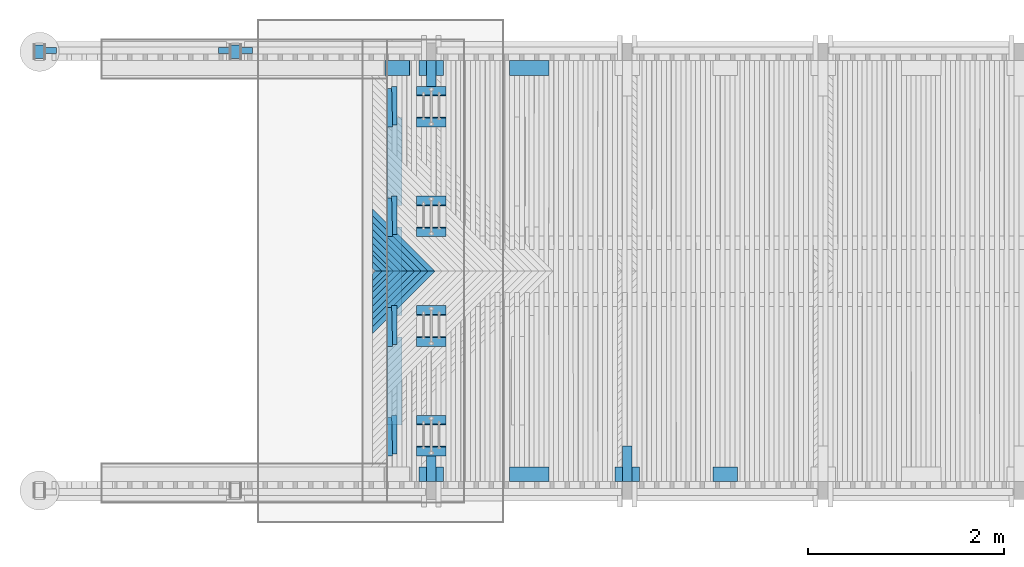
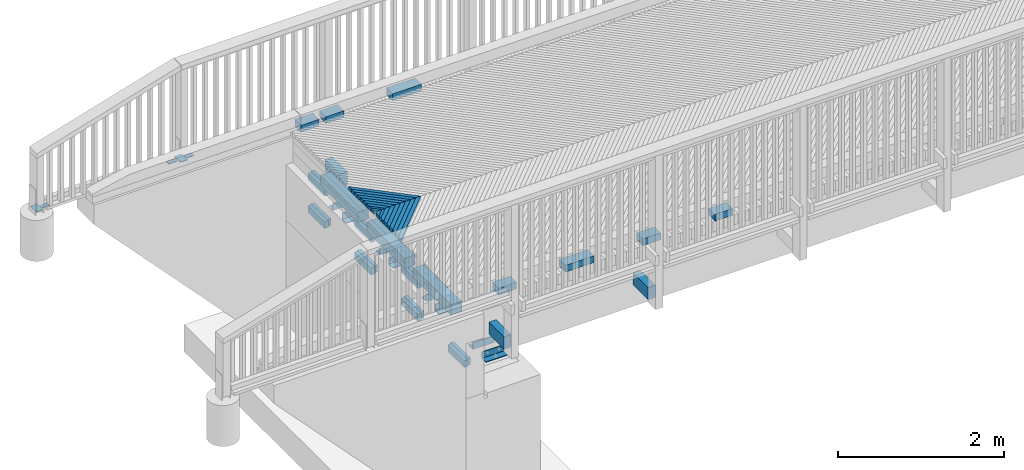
# One storey, part 47 of 52: 58 beams.
"""IFC2X3 building model written with IfcOpenShell, lengths in millimetres."""

from ifc_helpers import new_model, si_unit, frame, origin_with_axes, place, context, subcontext, project, spatial, faceted_brep, material, type_object, element, save


model = new_model("IFC2X3")

# Units and contexts
model_context = context("Model", 3, precision=1e-05, world=origin_with_axes())
body_context = subcontext(model_context, "Body", "Model", "MODEL_VIEW")
ifc_project = project(units=[si_unit("LENGTHUNIT", "METRE", prefix="MILLI"), si_unit("AREAUNIT", "SQUARE_METRE"), si_unit("VOLUMEUNIT", "CUBIC_METRE"), si_unit("MASSUNIT", "GRAM", prefix="KILO"), si_unit("TIMEUNIT", "SECOND"), si_unit("PLANEANGLEUNIT", "RADIAN"), si_unit("SOLIDANGLEUNIT", "STERADIAN"), si_unit("THERMODYNAMICTEMPERATUREUNIT", "DEGREE_CELSIUS"), si_unit("LUMINOUSINTENSITYUNIT", "LUMEN")], contexts=[model_context])

# Site, building, storey
site_placement = place(None, origin_with_axes())
site = spatial("IfcSite", under=ifc_project, at=site_placement, Name="Undefined", CompositionType="ELEMENT")
building_placement = place(site_placement, origin_with_axes())
building = spatial("IfcBuilding", under=site, at=building_placement, Name="Undefined", CompositionType="ELEMENT")
storey_placement = place(building_placement, origin_with_axes())
storey = spatial("IfcBuildingStorey", under=building, at=storey_placement, Name="Undefined", CompositionType="ELEMENT", Elevation=0.0)

# Beams
ifc_material_1 = material(Name="TIMBER/Timber_Undefined")
beam_type_1 = type_object("IfcBeamType", Name="150*100", PredefinedType="NOTDEFINED")
for number, where, z_axis, x_axis in (
    (1, (801.255181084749, 289.999999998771, 3175.55415743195), (0.0, -1.0, 0.0), (0.999955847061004, 0.0, 0.0093970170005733)),
    (2, (801.255181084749, 4439.99999999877, 3175.55415743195), (0.0, -1.0, 0.0), (0.999955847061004, 0.0, 0.0093970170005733)),
):
    element("IfcBeam", number, at=place(storey_placement, frame(where, z_axis=z_axis, x_axis=x_axis)), inside=storey, type_object=beam_type_1, material=ifc_material_1, Name="TÖRMÄYSJOHDE", ObjectType="150*100", context=body_context, shape_type="Brep", body=[
        faceted_brep([(-3.63797880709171e-12, 50.0, -75.0), (-3.63797880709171e-12, 50.0, 75.0), (399.996161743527, 49.9999999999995, 75.0), (399.996161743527, 49.9999999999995, -75.0), (0.0, -49.9999999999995, 75.0), (399.996161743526, -50.0000000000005, 75.0), (0.0, -49.9999999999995, -75.0), (399.996161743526, -50.0000000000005, -75.0)], [[[0, 1, 2, 3]], [[1, 4, 5, 2]], [[4, 6, 7, 5]], [[6, 0, 3, 7]], [[5, 7, 3, 2]], [[6, 4, 1, 0]]]),
    ])
for number, where, z_axis, x_axis in (
    (3, (2876.78354707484, 289.999999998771, 3196.15064859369), (0.0, -1.0, 0.0), (0.999952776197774, 0.0, 0.00971830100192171)),
    (4, (1876.41959979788, 289.999999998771, 3186.80706939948), (0.0, -1.0, 0.0), (0.999935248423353, 0.0, 0.0113797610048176)),
    (5, (-124.254815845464, 4439.99999999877, 3163.13350788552), (0.0, -1.0, 0.0), (0.999891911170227, 0.0, 0.0147025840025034)),
    (6, (-124.254815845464, 289.999999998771, 3163.13350788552), (0.0, -1.0, 0.0), (0.999891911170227, 0.0, 0.0147025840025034)),
    (7, (-469.724815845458, 4439.99999999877, 3158.3535078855), (0.0, -1.0, 0.0), (0.999891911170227, 0.0, 0.0147025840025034)),
):
    element("IfcBeam", number, at=place(storey_placement, frame(where, z_axis=z_axis, x_axis=x_axis)), inside=storey, type_object=beam_type_1, material=ifc_material_1, Name="TÖRMÄYSJOHDE", ObjectType="150*100", context=body_context, shape_type="Brep", body=[
        faceted_brep([(-3.63797880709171e-12, 50.0, -75.0), (-3.63797880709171e-12, 50.0, 75.0), (250.000589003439, 50.0000000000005, 75.0), (250.000589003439, 50.0000000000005, -75.0), (0.0, -49.9999999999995, 75.0), (250.000589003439, -50.0, 75.0), (0.0, -49.9999999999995, -75.0), (250.000589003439, -50.0, -75.0)], [[[0, 1, 2, 3]], [[1, 4, 5, 2]], [[4, 6, 7, 5]], [[6, 0, 3, 7]], [[5, 7, 3, 2]], [[6, 4, 1, 0]]]),
    ])
beam_type_2 = type_object("IfcBeamType", Name="150*150", PredefinedType="NOTDEFINED")
for number, where, z_axis, x_axis, name in (
    (8, (-375.006122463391, 3035.00113004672, 2658.99214114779), (4.45050000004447e-05, 0.0, 0.999999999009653), (0.0, 1.0, 0.0), "BEAM"),
    (9, (-375.006122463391, 1915.00113004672, 2658.99214114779), (4.45050000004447e-05, 0.0, 0.999999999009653), (0.0, 1.0, 0.0), "BEAM"),
    (10, (-375.006122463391, 795.001130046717, 2658.99214114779), (4.45050000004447e-05, 0.0, 0.999999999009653), (0.0, 1.0, 0.0), "BEAM"),
):
    element("IfcBeam", number, at=place(storey_placement, frame(where, z_axis=z_axis, x_axis=x_axis)), inside=storey, type_object=beam_type_2, material=ifc_material_1, Name=name, ObjectType="150*150", context=body_context, shape_type="Brep", body=[
        faceted_brep([(3.63797880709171e-12, 75.0000000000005, -75.0), (3.63797880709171e-12, 75.0000000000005, 75.0), (900.0, 75.0, 75.0000000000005), (900.0, 74.9999999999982, -74.9999999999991), (0.0, -75.0000000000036, 75.0000000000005), (900.0, -75.0000000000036, 75.0000000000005), (0.0, -75.0, -74.9999999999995), (900.0, -75.0, -74.9999999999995)], [[[0, 1, 2, 3]], [[1, 4, 5, 2]], [[4, 6, 7, 5]], [[6, 0, 3, 7]], [[5, 7, 3, 2]], [[6, 4, 1, 0]]]),
    ])
ifc_material_2 = material(Name="STEEL/AISI316")
beam_type_3 = type_object("IfcBeamType", Name="PL60*10", PredefinedType="NOTDEFINED")
for number, where, z_axis, x_axis in (
    (11, (-3940.00349607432, 4620.00000020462, 3073.75999999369), (-0.000116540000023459, -0.999999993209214, 0.0), (0.999999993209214, -0.000116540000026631, 0.0)),
    (12, (-2059.99650392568, 4620.00000020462, 3101.8699999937), (0.000116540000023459, -0.999999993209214, 0.0), (-0.999999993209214, -0.000116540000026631, 0.0)),
    (13, (-1940.00349607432, 4620.00000020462, 3101.86999999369), (-0.000116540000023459, -0.999999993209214, 0.0), (0.999999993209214, -0.000116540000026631, 0.0)),
):
    element("IfcBeam", number, at=place(storey_placement, frame(where, z_axis=z_axis, x_axis=x_axis)), inside=storey, type_object=beam_type_3, material=ifc_material_2, Name="KAIDEPYLVÄS", ObjectType="PL60*10", context=body_context, shape_type="Brep", body=[
        faceted_brep([(0.0, 5.0, -30.0), (3.63797880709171e-12, 5.0, 30.0000000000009), (115.000000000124, 5.0, 30.0000000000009), (115.000000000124, 5.0, -30.0), (3.63797880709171e-12, -5.0, 30.0000000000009), (115.000000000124, -5.0, 30.0000000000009), (0.0, -5.0, -30.0), (115.000000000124, -5.0, -30.0)], [[[0, 1, 2, 3]], [[1, 4, 5, 2]], [[4, 6, 7, 5]], [[6, 0, 3, 7]], [[5, 7, 3, 2]], [[6, 4, 1, 0]]]),
    ])
beam_type_4 = type_object("IfcBeamType", Name="PL100*10", PredefinedType="NOTDEFINED")
for number, where, z_axis, x_axis in (
    (14, (-3999.99999987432, 4674.98000000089, 3089.56000000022), (-1.0, 0.0, 0.0), (0.0, -1.0, 0.0)),
    (15, (-1999.99999987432, 4674.98000000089, 3117.67000000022), (-1.0, 0.0, 0.0), (0.0, -1.0, 0.0)),
):
    element("IfcBeam", number, at=place(storey_placement, frame(where, z_axis=z_axis, x_axis=x_axis)), inside=storey, type_object=beam_type_4, material=ifc_material_2, Name="KAIDEPYLVÄS", ObjectType="PL100*10", context=body_context, shape_type="Brep", body=[
        faceted_brep([(0.0, 5.0, -50.0), (0.0, 5.0, 50.0), (140.0, 5.0, 50.0), (140.0, 5.0, -50.0), (0.0, -5.0, 50.0), (140.0, -5.0, 50.0), (0.0, -5.0, -50.0), (140.0, -5.0, -50.0)], [[[0, 1, 2, 3]], [[1, 4, 5, 2]], [[4, 6, 7, 5]], [[6, 0, 3, 7]], [[5, 7, 3, 2]], [[6, 4, 1, 0]]]),
    ])
ifc_material_3 = material(Name="STEEL/S235JR")
beam_type_5 = type_object("IfcBeamType", Name="L100*10", PredefinedType="NOTDEFINED")
for number, where, z_axis, x_axis, name in (
    (16, (150.0, 2767.50000000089, 2047.33), (0.0, -1.0, 0.0), (-1.0, 0.0, 0.0), "BEAM"),
    (17, (150.0, 3082.50000000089, 2047.33), (0.0, 0.0, 1.0), (-1.0, 0.0, 0.0), "BEAM"),
    (18, (150.0, 3887.50000000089, 2025.33), (0.0, -1.0, 0.0), (-1.0, 0.0, 0.0), "BEAM"),
    (19, (150.0, 4202.50000000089, 2025.33), (0.0, 0.0, 1.0), (-1.0, 0.0, 0.0), "BEAM"),
    (20, (-150.0, 1962.5, 2047.33), (0.0, 1.0, 0.0), (1.0, 0.0, 0.0), "BEAM"),
    (21, (-150.0, 1647.5, 2047.33), (0.0, 0.0, 1.0), (1.0, 0.0, 0.0), "BEAM"),
    (22, (-150.0, 842.5, 2025.33), (0.0, 1.0, 0.0), (1.0, 0.0, 0.0), "BEAM"),
    (23, (-150.0, 527.5, 2025.33), (0.0, 0.0, 1.0), (1.0, 0.0, 0.0), "BEAM"),
):
    element("IfcBeam", number, at=place(storey_placement, frame(where, z_axis=z_axis, x_axis=x_axis)), inside=storey, type_object=beam_type_5, material=ifc_material_3, Name=name, ObjectType="L100*10", context=body_context, shape_type="Brep", body=[
        faceted_brep([(0.0, 50.0, -50.0), (0.0, 50.0, 50.0), (300.0, 50.0, 50.0), (300.0, 50.0, -50.0), (0.0, 40.0, 50.0), (300.0, 40.0, 50.0), (0.0, 40.0, -40.0), (300.0, 40.0, -40.0), (0.0, -50.0, -40.0), (300.0, -50.0, -40.0), (0.0, -50.0, -50.0), (300.0, -50.0, -50.0)], [[[0, 1, 2, 3]], [[1, 4, 5, 2]], [[4, 6, 7, 5]], [[6, 8, 9, 7]], [[8, 10, 11, 9]], [[10, 0, 3, 11]], [[5, 7, 9, 11, 3, 2]], [[10, 8, 6, 4, 1, 0]]]),
    ])
beam_type_6 = type_object("IfcBeamType", Name="100*60", PredefinedType="NOTDEFINED")
beam_1_placement = place(storey_placement, frame((-380.01, 3857.5, 2533.62000000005), z_axis=(0.0, 0.0, 1.0), x_axis=(0.0, 1.0, 0.0)))
element("IfcBeam", 24, at=beam_1_placement, inside=storey, type_object=beam_type_6, material=ifc_material_1, Name="BEAM", ObjectType="100*60", context=body_context, shape_type="Brep", body=[
    faceted_brep([(0.0, -30.0, 50.0), (0.0, -30.0, -50.0), (395.0, -30.0, -50.0), (395.0, -30.0, 50.0), (0.0, 15.2499998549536, 50.0), (0.0, 15.2499998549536, -50.0), (395.0, 25.25, -50.0), (395.0, 25.25, 50.0)], [[[0, 1, 2, 3]], [[1, 0, 4, 5]], [[2, 1, 5, 6]], [[3, 2, 6, 7]], [[0, 3, 7, 4]], [[6, 5, 4, 7]]]),
])
beam_2_placement = place(storey_placement, frame((-420.01, 3837.5, 2533.62000000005), z_axis=(0.0, 0.0, 1.0), x_axis=(0.0, 1.0, 0.0)))
element("IfcBeam", 25, at=beam_2_placement, inside=storey, type_object=beam_type_6, material=ifc_material_1, Name="BEAM", ObjectType="100*60", context=body_context, shape_type="Brep", body=[
    faceted_brep([(0.0, 30.0, -50.0), (0.0, 30.0, 50.0), (395.0, 30.0, 50.0), (395.0, 30.0, -50.0), (0.0, -25.2563292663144, 50.0), (395.0, -15.2563291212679, 50.0), (395.0, -15.2563291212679, -50.0), (0.0, -25.2563292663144, -50.0)], [[[0, 1, 2, 3]], [[2, 1, 4, 5]], [[3, 2, 5, 6]], [[0, 3, 6, 7]], [[1, 0, 7, 4]], [[6, 5, 4, 7]]]),
])
beam_3_placement = place(storey_placement, frame((-380.0, 3857.5, 2055.33), z_axis=(0.0, 0.0, 1.0), x_axis=(0.0, 1.0, 0.0)))
element("IfcBeam", 26, at=beam_3_placement, inside=storey, type_object=beam_type_6, material=ifc_material_1, Name="BEAM", ObjectType="100*60", context=body_context, shape_type="Brep", body=[
    faceted_brep([(0.0, -30.0, 50.0), (0.0, -30.0, -50.0), (395.0, -30.0, -50.0), (395.0, -30.0, 50.0), (0.0, 15.2499998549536, 50.0), (0.0, 15.2499998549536, -50.0), (395.0, 25.25, -50.0), (395.0, 25.25, 50.0)], [[[0, 1, 2, 3]], [[1, 0, 4, 5]], [[2, 1, 5, 6]], [[3, 2, 6, 7]], [[0, 3, 7, 4]], [[6, 5, 4, 7]]]),
])
beam_4_placement = place(storey_placement, frame((-420.0, 3837.5, 2055.33), z_axis=(0.0, 0.0, 1.0), x_axis=(0.0, 1.0, 0.0)))
element("IfcBeam", 27, at=beam_4_placement, inside=storey, type_object=beam_type_6, material=ifc_material_1, Name="BEAM", ObjectType="100*60", context=body_context, shape_type="Brep", body=[
    faceted_brep([(0.0, 30.0, -50.0), (0.0, 30.0, 50.0), (395.0, 30.0, 50.0), (395.0, 30.0, -50.0), (0.0, -25.2563292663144, 50.0), (395.0, -15.2563291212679, 50.0), (395.0, -15.2563291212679, -50.0), (0.0, -25.2563292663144, -50.0)], [[[0, 1, 2, 3]], [[2, 1, 4, 5]], [[3, 2, 5, 6]], [[0, 3, 6, 7]], [[1, 0, 7, 4]], [[6, 5, 4, 7]]]),
])
beam_5_placement = place(storey_placement, frame((-380.01, 2737.5, 2533.62000000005), z_axis=(0.0, 0.0, 1.0), x_axis=(0.0, 1.0, 0.0)))
element("IfcBeam", 28, at=beam_5_placement, inside=storey, type_object=beam_type_6, material=ifc_material_1, Name="BEAM", ObjectType="100*60", context=body_context, shape_type="Brep", body=[
    faceted_brep([(0.0, -30.0, 50.0), (0.0, -30.0, -50.0), (395.0, -30.0, -50.0), (395.0, -30.0, 50.0), (0.0, 15.2499998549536, 50.0), (0.0, 15.2499998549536, -50.0), (395.0, 25.25, -50.0), (395.0, 25.25, 50.0)], [[[0, 1, 2, 3]], [[1, 0, 4, 5]], [[2, 1, 5, 6]], [[3, 2, 6, 7]], [[0, 3, 7, 4]], [[6, 5, 4, 7]]]),
])
beam_6_placement = place(storey_placement, frame((-420.01, 2717.5, 2533.62000000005), z_axis=(0.0, 0.0, 1.0), x_axis=(0.0, 1.0, 0.0)))
element("IfcBeam", 29, at=beam_6_placement, inside=storey, type_object=beam_type_6, material=ifc_material_1, Name="BEAM", ObjectType="100*60", context=body_context, shape_type="Brep", body=[
    faceted_brep([(0.0, 30.0, -50.0), (0.0, 30.0, 50.0), (395.0, 30.0, 50.0), (395.0, 30.0, -50.0), (0.0, -25.2563292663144, 50.0), (395.0, -15.2563291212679, 50.0), (395.0, -15.2563291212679, -50.0), (0.0, -25.2563292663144, -50.0)], [[[0, 1, 2, 3]], [[2, 1, 4, 5]], [[3, 2, 5, 6]], [[0, 3, 6, 7]], [[1, 0, 7, 4]], [[6, 5, 4, 7]]]),
])
beam_7_placement = place(storey_placement, frame((-380.0, 2737.5, 2055.33), z_axis=(0.0, 0.0, 1.0), x_axis=(0.0, 1.0, 0.0)))
element("IfcBeam", 30, at=beam_7_placement, inside=storey, type_object=beam_type_6, material=ifc_material_1, Name="BEAM", ObjectType="100*60", context=body_context, shape_type="Brep", body=[
    faceted_brep([(0.0, -30.0, 50.0), (0.0, -30.0, -50.0), (395.0, -30.0, -50.0), (395.0, -30.0, 50.0), (0.0, 15.2499998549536, 50.0), (0.0, 15.2499998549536, -50.0), (395.0, 25.25, -50.0), (395.0, 25.25, 50.0)], [[[0, 1, 2, 3]], [[1, 0, 4, 5]], [[2, 1, 5, 6]], [[3, 2, 6, 7]], [[0, 3, 7, 4]], [[6, 5, 4, 7]]]),
])
beam_8_placement = place(storey_placement, frame((-420.0, 2717.5, 2055.33), z_axis=(0.0, 0.0, 1.0), x_axis=(0.0, 1.0, 0.0)))
element("IfcBeam", 31, at=beam_8_placement, inside=storey, type_object=beam_type_6, material=ifc_material_1, Name="BEAM", ObjectType="100*60", context=body_context, shape_type="Brep", body=[
    faceted_brep([(0.0, 30.0, -50.0), (0.0, 30.0, 50.0), (395.0, 30.0, 50.0), (395.0, 30.0, -50.0), (0.0, -25.2563292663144, 50.0), (395.0, -15.2563291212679, 50.0), (395.0, -15.2563291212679, -50.0), (0.0, -25.2563292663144, -50.0)], [[[0, 1, 2, 3]], [[2, 1, 4, 5]], [[3, 2, 5, 6]], [[0, 3, 6, 7]], [[1, 0, 7, 4]], [[6, 5, 4, 7]]]),
])
beam_9_placement = place(storey_placement, frame((-380.01, 1617.5, 2533.62000000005), z_axis=(0.0, 0.0, 1.0), x_axis=(0.0, 1.0, 0.0)))
element("IfcBeam", 32, at=beam_9_placement, inside=storey, type_object=beam_type_6, material=ifc_material_1, Name="BEAM", ObjectType="100*60", context=body_context, shape_type="Brep", body=[
    faceted_brep([(0.0, -30.0, 50.0), (0.0, -30.0, -50.0), (395.0, -30.0, -50.0), (395.0, -30.0, 50.0), (0.0, 15.2499998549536, 50.0), (0.0, 15.2499998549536, -50.0), (395.0, 25.25, -50.0), (395.0, 25.25, 50.0)], [[[0, 1, 2, 3]], [[1, 0, 4, 5]], [[2, 1, 5, 6]], [[3, 2, 6, 7]], [[0, 3, 7, 4]], [[6, 5, 4, 7]]]),
])
beam_10_placement = place(storey_placement, frame((-420.01, 1597.5, 2533.62000000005), z_axis=(0.0, 0.0, 1.0), x_axis=(0.0, 1.0, 0.0)))
element("IfcBeam", 33, at=beam_10_placement, inside=storey, type_object=beam_type_6, material=ifc_material_1, Name="BEAM", ObjectType="100*60", context=body_context, shape_type="Brep", body=[
    faceted_brep([(0.0, 30.0, -50.0), (0.0, 30.0, 50.0), (395.0, 30.0, 50.0), (395.0, 30.0, -50.0), (0.0, -25.2563292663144, 50.0), (395.0, -15.2563291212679, 50.0), (395.0, -15.2563291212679, -50.0), (0.0, -25.2563292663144, -50.0)], [[[0, 1, 2, 3]], [[2, 1, 4, 5]], [[3, 2, 5, 6]], [[0, 3, 6, 7]], [[1, 0, 7, 4]], [[6, 5, 4, 7]]]),
])
beam_11_placement = place(storey_placement, frame((-380.0, 1617.5, 2055.33), z_axis=(0.0, 0.0, 1.0), x_axis=(0.0, 1.0, 0.0)))
element("IfcBeam", 34, at=beam_11_placement, inside=storey, type_object=beam_type_6, material=ifc_material_1, Name="BEAM", ObjectType="100*60", context=body_context, shape_type="Brep", body=[
    faceted_brep([(0.0, -30.0, 50.0), (0.0, -30.0, -50.0), (395.0, -30.0, -50.0), (395.0, -30.0, 50.0), (0.0, 15.2499998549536, 50.0), (0.0, 15.2499998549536, -50.0), (395.0, 25.25, -50.0), (395.0, 25.25, 50.0)], [[[0, 1, 2, 3]], [[1, 0, 4, 5]], [[2, 1, 5, 6]], [[3, 2, 6, 7]], [[0, 3, 7, 4]], [[6, 5, 4, 7]]]),
])
beam_12_placement = place(storey_placement, frame((-420.0, 1597.5, 2055.33), z_axis=(0.0, 0.0, 1.0), x_axis=(0.0, 1.0, 0.0)))
element("IfcBeam", 35, at=beam_12_placement, inside=storey, type_object=beam_type_6, material=ifc_material_1, Name="BEAM", ObjectType="100*60", context=body_context, shape_type="Brep", body=[
    faceted_brep([(0.0, 30.0, -50.0), (0.0, 30.0, 50.0), (395.0, 30.0, 50.0), (395.0, 30.0, -50.0), (0.0, -25.2563292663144, 50.0), (395.0, -15.2563291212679, 50.0), (395.0, -15.2563291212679, -50.0), (0.0, -25.2563292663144, -50.0)], [[[0, 1, 2, 3]], [[2, 1, 4, 5]], [[3, 2, 5, 6]], [[0, 3, 6, 7]], [[1, 0, 7, 4]], [[6, 5, 4, 7]]]),
])
beam_13_placement = place(storey_placement, frame((-380.0, 497.5, 2055.33), z_axis=(0.0, 0.0, 1.0), x_axis=(0.0, 1.0, 0.0)))
element("IfcBeam", 36, at=beam_13_placement, inside=storey, type_object=beam_type_6, material=ifc_material_1, Name="BEAM", ObjectType="100*60", context=body_context, shape_type="Brep", body=[
    faceted_brep([(0.0, -30.0, 50.0), (0.0, -30.0, -50.0), (395.0, -30.0, -50.0), (395.0, -30.0, 50.0), (0.0, 15.2499998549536, 50.0), (0.0, 15.2499998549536, -50.0), (395.0, 25.25, -50.0), (395.0, 25.25, 50.0)], [[[0, 1, 2, 3]], [[1, 0, 4, 5]], [[2, 1, 5, 6]], [[3, 2, 6, 7]], [[0, 3, 7, 4]], [[6, 5, 4, 7]]]),
])
beam_14_placement = place(storey_placement, frame((-420.0, 477.5, 2055.33), z_axis=(0.0, 0.0, 1.0), x_axis=(0.0, 1.0, 0.0)))
element("IfcBeam", 37, at=beam_14_placement, inside=storey, type_object=beam_type_6, material=ifc_material_1, Name="BEAM", ObjectType="100*60", context=body_context, shape_type="Brep", body=[
    faceted_brep([(0.0, 30.0, -50.0), (0.0, 30.0, 50.0), (395.0, 30.0, 50.0), (395.0, 30.0, -50.0), (0.0, -25.2563292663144, 50.0), (395.0, -15.2563291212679, 50.0), (395.0, -15.2563291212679, -50.0), (0.0, -25.2563292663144, -50.0)], [[[0, 1, 2, 3]], [[2, 1, 4, 5]], [[3, 2, 5, 6]], [[0, 3, 6, 7]], [[1, 0, 7, 4]], [[6, 5, 4, 7]]]),
])
beam_type_7 = type_object("IfcBeamType", Name="50*50", PredefinedType="NOTDEFINED")
beam_15_placement = place(storey_placement, frame((-537.985484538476, 2364.50010032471, 3175.22917320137), z_axis=(0.707225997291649, -0.706981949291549, -0.00281285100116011), x_axis=(-0.706806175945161, -0.70694885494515, -0.0254626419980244)))
element("IfcBeam", 38, at=beam_15_placement, inside=storey, type_object=beam_type_7, material=ifc_material_1, Name="BEAM", ObjectType="50*50", context=body_context, shape_type="Brep", body=[
    faceted_brep([(23.4806436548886, -25.0, -25.0), (-26.4222658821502, -25.0, 24.9999999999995), (-25.0086637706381, 24.9999999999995, 24.9999999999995), (24.894245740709, 25.0, -25.0), (62.1578303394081, -25.0, -25.0), (112.187528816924, -24.9999999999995, 25.0), (113.320306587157, 25.0, 25.0000000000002), (63.2906081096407, 25.0, -24.9999999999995)], [[[0, 1, 2, 3]], [[1, 0, 4, 5]], [[2, 1, 5, 6]], [[3, 2, 6, 7]], [[0, 3, 7, 4]], [[6, 5, 4, 7]]]),
])
beam_16_placement = place(storey_placement, frame((-537.985484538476, 2365.49989967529, 3175.22917320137), z_axis=(0.707225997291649, 0.706981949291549, -0.00281285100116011), x_axis=(-0.706806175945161, 0.70694885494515, -0.0254626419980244)))
element("IfcBeam", 39, at=beam_16_placement, inside=storey, type_object=beam_type_7, material=ifc_material_1, Name="BEAM", ObjectType="50*50", context=body_context, shape_type="Brep", body=[
    faceted_brep([(25.0011701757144, -25.0, -25.0), (-25.0011704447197, -25.0, 24.9999999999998), (-26.4154158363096, 25.0000000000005, 24.9999999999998), (23.5869248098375, 25.0, -25.0000000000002), (112.187528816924, 24.9999999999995, 25.0), (62.1578303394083, 25.0, -25.0), (63.290608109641, -25.0, -25.0), (113.320306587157, -25.0, 25.0000000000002)], [[[0, 1, 2, 3]], [[3, 2, 4, 5]], [[0, 3, 5, 6]], [[1, 0, 6, 7]], [[2, 1, 7, 4]], [[6, 5, 4, 7]]]),
])
beam_17_placement = place(storey_placement, frame((-467.268344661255, 2364.50010032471, 3176.23083387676), z_axis=(0.707225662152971, -0.706981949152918, -0.00289592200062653), x_axis=(-0.706809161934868, -0.706948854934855, -0.0253796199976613)))
element("IfcBeam", 40, at=beam_17_placement, inside=storey, type_object=beam_type_7, material=ifc_material_1, Name="BEAM", ObjectType="50*50", context=body_context, shape_type="Brep", body=[
    faceted_brep([(23.4806436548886, -25.0, -25.0), (-26.4222658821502, -25.0, 24.9999999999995), (-25.0086637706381, 24.9999999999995, 24.9999999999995), (24.894245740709, 25.0, -25.0), (162.212982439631, -25.0, -24.9999999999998), (212.242445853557, -25.0, 25.0), (213.366912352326, 25.0000000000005, 24.9999999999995), (163.3374489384, 25.0, -25.0000000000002)], [[[0, 1, 2, 3]], [[1, 0, 4, 5]], [[2, 1, 5, 6]], [[3, 2, 6, 7]], [[0, 3, 7, 4]], [[6, 5, 4, 7]]]),
])
beam_18_placement = place(storey_placement, frame((-467.268344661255, 2365.49989967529, 3176.23083387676), z_axis=(0.707225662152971, 0.706981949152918, -0.00289592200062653), x_axis=(-0.706809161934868, 0.706948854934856, -0.0253796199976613)))
element("IfcBeam", 41, at=beam_18_placement, inside=storey, type_object=beam_type_7, material=ifc_material_1, Name="BEAM", ObjectType="50*50", context=body_context, shape_type="Brep", body=[
    faceted_brep([(25.0011701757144, -25.0, -25.0), (-25.0011704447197, -25.0, 24.9999999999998), (-26.4154158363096, 25.0000000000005, 24.9999999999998), (23.5869248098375, 25.0, -25.0000000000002), (212.242445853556, 24.9999999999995, 25.0), (162.21298243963, 25.0, -24.9999999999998), (163.337448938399, -25.0, -25.0), (213.366912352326, -25.0, 25.0)], [[[0, 1, 2, 3]], [[3, 2, 4, 5]], [[0, 3, 5, 6]], [[1, 0, 6, 7]], [[2, 1, 7, 4]], [[6, 5, 4, 7]]]),
])
beam_19_placement = place(storey_placement, frame((-421.551087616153, 2364.50010032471, 3177.22418806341), z_axis=(0.707225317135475, -0.706981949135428, -0.00297899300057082), x_axis=(-0.706812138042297, -0.706948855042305, -0.0252965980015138)))
element("IfcBeam", 42, at=beam_19_placement, inside=storey, type_object=beam_type_7, material=ifc_material_1, Name="BEAM", ObjectType="50*50", context=body_context, shape_type="Brep", body=[
    faceted_brep([(23.4806436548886, -25.0, -25.0), (-26.4222658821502, -25.0, 24.9999999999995), (-25.0086637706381, 24.9999999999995, 24.9999999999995), (24.894245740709, 25.0, -25.0), (226.89738158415, -25.0000000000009, -25.0), (276.926609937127, -25.0000000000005, 25.0000000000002), (278.042765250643, 25.0, 25.0), (228.013536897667, 24.9999999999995, -24.9999999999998)], [[[0, 1, 2, 3]], [[1, 0, 4, 5]], [[2, 1, 5, 6]], [[3, 2, 6, 7]], [[0, 3, 7, 4]], [[6, 5, 4, 7]]]),
])
beam_20_placement = place(storey_placement, frame((-421.551087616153, 2365.49989967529, 3177.22418806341), z_axis=(0.707225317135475, 0.706981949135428, -0.00297899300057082), x_axis=(-0.706812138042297, 0.706948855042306, -0.0252965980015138)))
element("IfcBeam", 43, at=beam_20_placement, inside=storey, type_object=beam_type_7, material=ifc_material_1, Name="BEAM", ObjectType="50*50", context=body_context, shape_type="Brep", body=[
    faceted_brep([(25.0011701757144, -25.0, -25.0), (-25.0011704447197, -25.0, 24.9999999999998), (-26.4154158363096, 25.0000000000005, 24.9999999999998), (23.5869248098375, 25.0, -25.0000000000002), (276.926609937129, 25.0, 25.0000000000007), (226.897381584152, 25.0, -24.9999999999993), (228.013536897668, -25.0, -24.9999999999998), (278.042765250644, -25.0000000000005, 25.0000000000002)], [[[0, 1, 2, 3]], [[3, 2, 4, 5]], [[0, 3, 5, 6]], [[1, 0, 6, 7]], [[2, 1, 7, 4]], [[6, 5, 4, 7]]]),
])
beam_21_placement = place(storey_placement, frame((-350.833714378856, 2364.50010032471, 3178.20923574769), z_axis=(0.707224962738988, -0.706981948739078, -0.00306206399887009), x_axis=(-0.706815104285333, -0.706948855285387, -0.0252135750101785)))
element("IfcBeam", 44, at=beam_21_placement, inside=storey, type_object=beam_type_7, material=ifc_material_1, Name="BEAM", ObjectType="50*50", context=body_context, shape_type="Brep", body=[
    faceted_brep([(23.4806436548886, -25.0, -25.0), (-26.4222658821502, -25.0, 24.9999999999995), (-25.0086637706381, 24.9999999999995, 24.9999999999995), (24.894245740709, 25.0, -25.0), (326.9513337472, -25.0, -24.9999999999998), (376.980327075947, -25.0, 25.0), (378.088171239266, 24.9999999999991, 25.0), (328.059177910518, 24.9999999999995, -25.0)], [[[0, 1, 2, 3]], [[1, 0, 4, 5]], [[2, 1, 5, 6]], [[3, 2, 6, 7]], [[0, 3, 7, 4]], [[6, 5, 4, 7]]]),
])
beam_22_placement = place(storey_placement, frame((-350.833714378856, 2365.49989967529, 3178.20923574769), z_axis=(0.707224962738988, 0.706981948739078, -0.00306206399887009), x_axis=(-0.706815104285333, 0.706948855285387, -0.0252135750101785)))
element("IfcBeam", 45, at=beam_22_placement, inside=storey, type_object=beam_type_7, material=ifc_material_1, Name="BEAM", ObjectType="50*50", context=body_context, shape_type="Brep", body=[
    faceted_brep([(25.0011701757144, -25.0, -25.0), (-25.0011704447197, -25.0, 24.9999999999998), (-26.4154158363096, 25.0000000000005, 24.9999999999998), (23.5869248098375, 25.0, -25.0000000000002), (376.980327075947, 25.0, 24.9999999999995), (326.951333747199, 25.0000000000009, -24.9999999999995), (328.059177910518, -24.9999999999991, -24.9999999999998), (378.088171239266, -24.9999999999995, 24.9999999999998)], [[[0, 1, 2, 3]], [[3, 2, 4, 5]], [[0, 3, 5, 6]], [[1, 0, 6, 7]], [[2, 1, 7, 4]], [[6, 5, 4, 7]]]),
])
beam_23_placement = place(storey_placement, frame((-280.116225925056, 2364.50010032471, 3179.18597691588), z_axis=(0.707224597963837, -0.706981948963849, -0.00314513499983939), x_axis=(-0.706818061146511, -0.706948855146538, -0.0251305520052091)))
element("IfcBeam", 46, at=beam_23_placement, inside=storey, type_object=beam_type_7, material=ifc_material_1, Name="BEAM", ObjectType="50*50", context=body_context, shape_type="Brep", body=[
    faceted_brep([(23.4806436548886, -25.0, -25.0), (-26.4222658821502, -25.0, 24.9999999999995), (-25.0086637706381, 24.9999999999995, 24.9999999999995), (24.894245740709, 25.0, -25.0), (427.004615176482, -25.0000000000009, -24.9999999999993), (477.033373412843, -25.0000000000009, 25.0000000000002), (478.132906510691, 24.9999999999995, 25.0000000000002), (428.104148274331, 24.9999999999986, -24.9999999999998)], [[[0, 1, 2, 3]], [[1, 0, 4, 5]], [[2, 1, 5, 6]], [[3, 2, 6, 7]], [[0, 3, 7, 4]], [[6, 5, 4, 7]]]),
])
beam_24_placement = place(storey_placement, frame((-280.116225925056, 2365.49989967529, 3179.18597691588), z_axis=(0.707224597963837, 0.706981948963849, -0.00314513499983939), x_axis=(-0.706818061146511, 0.706948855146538, -0.0251305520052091)))
element("IfcBeam", 47, at=beam_24_placement, inside=storey, type_object=beam_type_7, material=ifc_material_1, Name="BEAM", ObjectType="50*50", context=body_context, shape_type="Brep", body=[
    faceted_brep([(25.0011701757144, -25.0, -25.0), (-25.0011704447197, -25.0, 24.9999999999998), (-26.4154158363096, 25.0000000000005, 24.9999999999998), (23.5869248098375, 25.0, -25.0000000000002), (477.033373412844, 25.0000000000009, 24.9999999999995), (427.004615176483, 25.0000000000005, -25.0), (428.104148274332, -24.9999999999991, -25.0), (478.132906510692, -24.9999999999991, 24.9999999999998)], [[[0, 1, 2, 3]], [[3, 2, 4, 5]], [[0, 3, 5, 6]], [[1, 0, 6, 7]], [[2, 1, 7, 4]], [[6, 5, 4, 7]]]),
])
beam_25_placement = place(storey_placement, frame((-209.39862323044, 2364.50010032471, 3180.15441155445), z_axis=(0.707224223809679, -0.706981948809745, -0.00322820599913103), x_axis=(-0.706821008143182, -0.706948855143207, -0.025047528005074)))
element("IfcBeam", 48, at=beam_25_placement, inside=storey, type_object=beam_type_7, material=ifc_material_1, Name="BEAM", ObjectType="50*50", context=body_context, shape_type="Brep", body=[
    faceted_brep([(23.4806436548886, -25.0, -25.0), (-26.4222658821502, -25.0, 24.9999999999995), (-25.0086637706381, 24.9999999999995, 24.9999999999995), (24.894245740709, 25.0, -25.0), (527.057228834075, -25.0000000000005, -25.0000000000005), (577.085752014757, -25.0, 24.9999999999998), (578.176974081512, 25.0, 24.9999999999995), (528.14845090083, 24.9999999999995, -25.0000000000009)], [[[0, 1, 2, 3]], [[1, 0, 4, 5]], [[2, 1, 5, 6]], [[3, 2, 6, 7]], [[0, 3, 7, 4]], [[6, 5, 4, 7]]]),
])
beam_26_placement = place(storey_placement, frame((-209.39862323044, 2365.49989967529, 3180.15441155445), z_axis=(0.707224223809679, 0.706981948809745, -0.00322820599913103), x_axis=(-0.706821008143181, 0.706948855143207, -0.025047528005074)))
element("IfcBeam", 49, at=beam_26_placement, inside=storey, type_object=beam_type_7, material=ifc_material_1, Name="BEAM", ObjectType="50*50", context=body_context, shape_type="Brep", body=[
    faceted_brep([(25.0011701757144, -25.0, -25.0), (-25.0011704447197, -25.0, 24.9999999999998), (-26.4154158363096, 25.0000000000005, 24.9999999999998), (23.5869248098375, 25.0, -25.0000000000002), (577.085752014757, 25.0, 25.0000000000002), (527.057228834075, 25.0, -24.9999999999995), (528.14845090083, -25.0, -24.9999999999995), (578.176974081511, -25.0000000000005, 25.0000000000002)], [[[0, 1, 2, 3]], [[3, 2, 4, 5]], [[0, 3, 5, 6]], [[1, 0, 6, 7]], [[2, 1, 7, 4]], [[6, 5, 4, 7]]]),
])
beam_27_placement = place(storey_placement, frame((-138.680907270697, 2364.50010032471, 3181.11453965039), z_axis=(0.707223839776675, -0.706981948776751, -0.00331127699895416), x_axis=(-0.706823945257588, -0.706948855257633, -0.0249645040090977)))
element("IfcBeam", 50, at=beam_27_placement, inside=storey, type_object=beam_type_7, material=ifc_material_1, Name="BEAM", ObjectType="50*50", context=body_context, shape_type="Brep", body=[
    faceted_brep([(23.4806436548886, -25.0, -25.0), (-26.4222658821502, -25.0, 24.9999999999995), (-25.0086637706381, 24.9999999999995, 24.9999999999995), (24.894245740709, 25.0, -25.0), (627.109177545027, -25.0, -24.9999999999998), (677.137465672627, -25.0, 25.0000000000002), (678.220376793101, 25.0, 25.0), (628.192088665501, 25.0000000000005, -25.0)], [[[0, 1, 2, 3]], [[1, 0, 4, 5]], [[2, 1, 5, 6]], [[3, 2, 6, 7]], [[0, 3, 7, 4]], [[6, 5, 4, 7]]]),
])
beam_28_placement = place(storey_placement, frame((-138.680907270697, 2365.49989967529, 3181.11453965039), z_axis=(0.707223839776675, 0.706981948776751, -0.00331127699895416), x_axis=(-0.706823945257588, 0.706948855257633, -0.0249645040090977)))
element("IfcBeam", 51, at=beam_28_placement, inside=storey, type_object=beam_type_7, material=ifc_material_1, Name="BEAM", ObjectType="50*50", context=body_context, shape_type="Brep", body=[
    faceted_brep([(25.0011701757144, -25.0, -25.0), (-25.0011704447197, -25.0, 24.9999999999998), (-26.4154158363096, 25.0000000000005, 24.9999999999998), (23.5869248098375, 25.0, -25.0000000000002), (677.137465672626, 25.0, 25.0), (627.109177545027, 25.0, -24.9999999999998), (628.192088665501, -25.0000000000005, -24.9999999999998), (678.220376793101, -25.0, 24.9999999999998)], [[[0, 1, 2, 3]], [[3, 2, 4, 5]], [[0, 3, 5, 6]], [[1, 0, 6, 7]], [[2, 1, 7, 4]], [[6, 5, 4, 7]]]),
])
beam_29_placement = place(storey_placement, frame((-67.9630790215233, 2364.50010032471, 3182.06636119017), z_axis=(0.707223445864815, -0.706981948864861, -0.00339434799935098), x_axis=(-0.706826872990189, -0.706948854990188, -0.0248814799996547)))
element("IfcBeam", 52, at=beam_29_placement, inside=storey, type_object=beam_type_7, material=ifc_material_1, Name="BEAM", ObjectType="50*50", context=body_context, shape_type="Brep", body=[
    faceted_brep([(23.4806436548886, -25.0, -25.0), (-26.4222658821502, -25.0, 24.9999999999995), (-25.0086637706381, 24.9999999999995, 24.9999999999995), (24.894245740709, 25.0, -25.0), (727.160463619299, -25.0, -25.0), (777.188516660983, -25.0, 24.9999999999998), (778.263116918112, 25.0000000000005, 24.9999999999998), (728.235063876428, 25.0, -25.0000000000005)], [[[0, 1, 2, 3]], [[1, 0, 4, 5]], [[2, 1, 5, 6]], [[3, 2, 6, 7]], [[0, 3, 7, 4]], [[6, 5, 4, 7]]]),
])
beam_30_placement = place(storey_placement, frame((-67.9630790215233, 2365.49989967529, 3182.06636119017), z_axis=(0.707223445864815, 0.706981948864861, -0.00339434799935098), x_axis=(-0.706826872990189, 0.706948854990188, -0.0248814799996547)))
element("IfcBeam", 53, at=beam_30_placement, inside=storey, type_object=beam_type_7, material=ifc_material_1, Name="BEAM", ObjectType="50*50", context=body_context, shape_type="Brep", body=[
    faceted_brep([(25.0011701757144, -25.0, -25.0), (-25.0011704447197, -25.0, 24.9999999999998), (-26.4154158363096, 25.0000000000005, 24.9999999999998), (23.5869248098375, 25.0, -25.0000000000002), (777.188516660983, 25.0000000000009, 25.0), (727.160463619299, 25.0000000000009, -25.0000000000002), (728.235063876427, -24.9999999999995, -25.0000000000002), (778.263116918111, -24.9999999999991, 24.9999999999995)], [[[0, 1, 2, 3]], [[3, 2, 4, 5]], [[0, 3, 5, 6]], [[1, 0, 6, 7]], [[2, 1, 7, 4]], [[6, 5, 4, 7]]]),
])
beam_31_placement = place(storey_placement, frame((2.75486054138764, 2364.50010032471, 3183.00987616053), z_axis=(0.707223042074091, -0.706981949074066, -0.00347741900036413), x_axis=(-0.706829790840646, -0.706948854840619, -0.0247984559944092)))
element("IfcBeam", 54, at=beam_31_placement, inside=storey, type_object=beam_type_7, material=ifc_material_1, Name="BEAM", ObjectType="50*50", context=body_context, shape_type="Brep", body=[
    faceted_brep([(23.4806436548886, -25.0, -25.0), (-26.4222658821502, -25.0, 24.9999999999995), (-25.0086637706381, 24.9999999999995, 24.9999999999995), (24.894245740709, 25.0, -25.0), (827.211090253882, -25.0000000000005, -25.0), (877.238908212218, -25.0000000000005, 25.0000000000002), (878.305197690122, 24.9999999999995, 24.9999999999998), (828.277379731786, 25.0, -25.0000000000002)], [[[0, 1, 2, 3]], [[1, 0, 4, 5]], [[2, 1, 5, 6]], [[3, 2, 6, 7]], [[0, 3, 7, 4]], [[6, 5, 4, 7]]]),
])
beam_32_placement = place(storey_placement, frame((2.75486054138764, 2365.49989967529, 3183.00987616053), z_axis=(0.707223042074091, 0.706981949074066, -0.00347741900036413), x_axis=(-0.706829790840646, 0.706948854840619, -0.0247984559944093)))
element("IfcBeam", 55, at=beam_32_placement, inside=storey, type_object=beam_type_7, material=ifc_material_1, Name="BEAM", ObjectType="50*50", context=body_context, shape_type="Brep", body=[
    faceted_brep([(25.0011701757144, -25.0, -25.0), (-25.0011704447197, -25.0, 24.9999999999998), (-26.4154158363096, 25.0000000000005, 24.9999999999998), (23.5869248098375, 25.0, -25.0000000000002), (877.238908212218, 25.0000000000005, 25.0000000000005), (827.211090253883, 25.0, -24.9999999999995), (828.277379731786, -25.0, -24.9999999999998), (878.305197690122, -24.9999999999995, 25.0)], [[[0, 1, 2, 3]], [[3, 2, 4, 5]], [[0, 3, 5, 6]], [[1, 0, 6, 7]], [[2, 1, 7, 4]], [[6, 5, 4, 7]]]),
])
beam_type_8 = type_object("IfcBeamType", Name="180*100", PredefinedType="NOTDEFINED")
beam_33_placement = place(storey_placement, frame((2000.00006783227, 215.01209190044, 2408.46176658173), z_axis=(0.0, 0.0, 1.0), x_axis=(0.0, 1.0, 0.0)))
element("IfcBeam", 56, at=beam_33_placement, inside=storey, type_object=beam_type_8, material=ifc_material_1, Name="KAIDEPYLVÄS", ObjectType="180*100", context=body_context, shape_type="Brep", body=[
    faceted_brep([(0.0, 50.0, -90.0), (0.0, 50.0, 90.0), (363.740000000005, 50.0, 90.0), (363.740000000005, 50.0, -90.0), (0.0, -50.0, 90.0), (363.740000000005, -50.0, 90.0), (0.0, -50.0, -90.0), (363.740000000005, -50.0, -90.0)], [[[0, 1, 2, 3]], [[1, 4, 5, 2]], [[4, 6, 7, 5]], [[6, 0, 3, 7]], [[5, 7, 3, 2]], [[6, 4, 1, 0]]]),
])
beam_34_placement = place(storey_placement, frame((7.51175321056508e-07, 4514.98790809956, 2385.26), z_axis=(0.0, 0.0, 1.0), x_axis=(0.0, -1.0, 0.0)))
element("IfcBeam", 57, at=beam_34_placement, inside=storey, type_object=beam_type_8, material=ifc_material_1, Name="KAIDEPYLVÄS", ObjectType="180*100", context=body_context, shape_type="Brep", body=[
    faceted_brep([(0.0, 50.0, -90.0), (0.0, 50.0, 90.0), (362.490000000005, 50.0, 90.0), (362.490000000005, 50.0, -90.0), (0.0, -50.0, 90.0), (362.490000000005, -50.0, 90.0), (0.0, -50.0, -90.0), (362.490000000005, -50.0, -90.0)], [[[0, 1, 2, 3]], [[1, 4, 5, 2]], [[4, 6, 7, 5]], [[6, 0, 3, 7]], [[5, 7, 3, 2]], [[6, 4, 1, 0]]]),
])
beam_35_placement = place(storey_placement, frame((7.51175321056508e-07, 215.01209190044, 2385.26), z_axis=(0.0, 0.0, 1.0), x_axis=(0.0, 1.0, 0.0)))
element("IfcBeam", 58, at=beam_35_placement, inside=storey, type_object=beam_type_8, material=ifc_material_1, Name="KAIDEPYLVÄS", ObjectType="180*100", context=body_context, shape_type="Brep", body=[
    faceted_brep([(0.0, 50.0, -90.0), (0.0, 50.0, 90.0), (363.740000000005, 50.0, 90.0), (363.740000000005, 50.0, -90.0), (0.0, -50.0, 90.0), (363.740000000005, -50.0, 90.0), (0.0, -50.0, -90.0), (363.740000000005, -50.0, -90.0)], [[[0, 1, 2, 3]], [[1, 4, 5, 2]], [[4, 6, 7, 5]], [[6, 0, 3, 7]], [[5, 7, 3, 2]], [[6, 4, 1, 0]]]),
])

save(model, "model.ifc")
